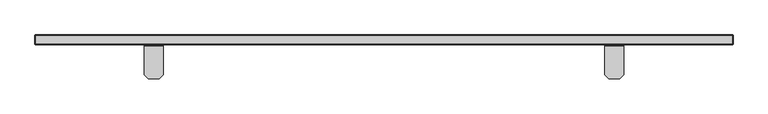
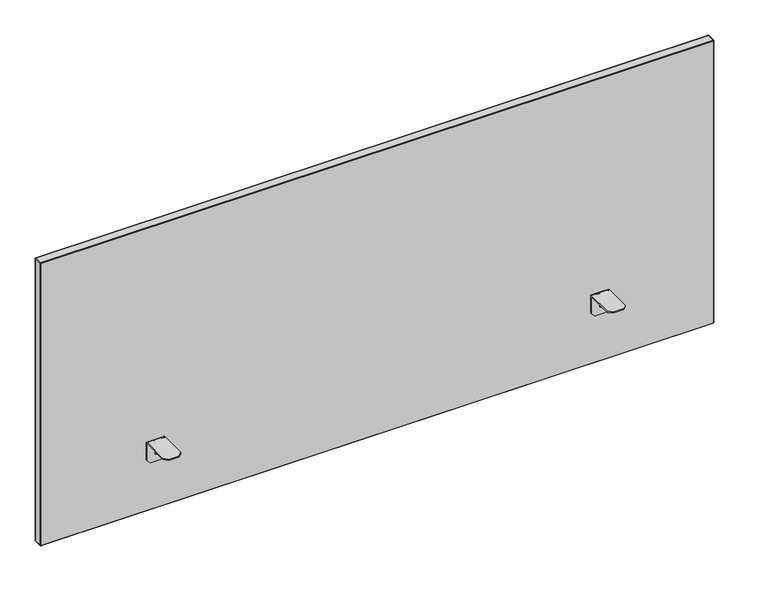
"""IFC4 building model written with IfcOpenShell, lengths in millimetres: furniture geometry, FREZZA_POP AD_Screen-for desk_Fabric : W1800 mm Structure_ZGBI - Embossed White & Finishing_D-King flex_XFGC."""

from ifc_helpers import new_model, si_unit, frame, origin, place, context, project, spatial, polyline, circle_curve, ellipse_curve, source, transform, mapped, element, save
from ifc_brep_helpers import plane_surface, cylinder_surface, revolved_surface, advanced_brep


def furniture_b54c54c6(model_context):
    return source(origin(), model_context, "Body", "AdvancedBrep", [
        advanced_brep(
        [(1557.5, -8.0540949, 725.0), (1557.5, -81.55, 725.0), (1557.5, -81.55, 722.0), (1557.5, -8.0035457, 722.0), (1557.5, -6.55, 720.5464543), (1557.5, -6.55, 673.0), (1557.5, -3.55, 673.0), (1557.5, -3.55, 720.4959051), (1509.5, -8.0035457, 722.0), (1509.5, -81.55, 722.0), (1509.5, -81.55, 725.0), (1509.5, -8.0540949, 725.0), (1509.5, -3.55, 720.4959051), (1509.5, -3.55, 673.0), (1509.5, -6.55, 673.0), (1509.5, -6.55, 720.5464543), (1519.5, -91.55, 725.0), (1547.5, -91.55, 725.0), (1547.5, -3.55, 663.0), (1519.5, -3.55, 663.0), (1547.5, -6.55, 663.0), (1519.5, -6.55, 663.0), (1535.0, -6.55, 720.5464543), (1535.0, -6.55, 682.0), (1532.0, -6.55, 682.0), (1532.0, -6.55, 720.5464543), (1532.0, -8.0035457, 722.0), (1535.0, -8.0035457, 722.0), (1547.5, -91.55, 722.0), (1519.5, -91.55, 722.0), (1532.0, -69.55, 722.0), (1535.0, -69.55, 722.0)],
        [
            (0, 1),
            (1, 2),
            (2, 3),
            (3, 4, circle_curve(frame((1557.5, -8.0035457, 720.5464543), z_axis=(-1.0, 0.0, 0.0), x_axis=(0.0, -1.0, 0.0)), 1.4535457)),
            (4, 5),
            (5, 6),
            (6, 7),
            (7, 0, circle_curve(frame((1557.5, -8.0540949, 720.4959051), z_axis=(1.0, 0.0, 0.0), x_axis=(0.0, -1.0, 0.0)), 4.5040949)),
            (8, 9),
            (9, 10),
            (10, 11),
            (11, 12, circle_curve(frame((1509.5, -8.0540949, 720.4959051), z_axis=(-1.0, 0.0, 0.0), x_axis=(0.0, -1.0, 0.0)), 4.5040949)),
            (12, 13),
            (13, 14),
            (14, 15),
            (15, 8, circle_curve(frame((1509.5, -8.0035457, 720.5464543), z_axis=(1.0, 0.0, 0.0), x_axis=(0.0, -1.0, 0.0)), 1.4535457)),
            (10, 16),
            (16, 17),
            (17, 1),
            (0, 11),
            (7, 12),
            (6, 18),
            (18, 19),
            (19, 13),
            (18, 20),
            (20, 21),
            (21, 19),
            (4, 22),
            (22, 23),
            (23, 24),
            (24, 25),
            (25, 15),
            (14, 21),
            (20, 5),
            (25, 26, circle_curve(frame((1532.0, -8.0035457, 720.5464543), z_axis=(1.0, 0.0, 0.0), x_axis=(0.0, -1.0, 0.0)), 1.4535457)),
            (26, 8),
            (3, 27),
            (27, 22, circle_curve(frame((1535.0, -8.0035457, 720.5464543), z_axis=(-1.0, 0.0, 0.0), x_axis=(0.0, -1.0, 0.0)), 1.4535457)),
            (2, 28),
            (28, 29),
            (29, 9),
            (26, 30),
            (30, 31),
            (31, 27),
            (16, 29),
            (28, 17),
            (31, 23),
            (24, 30),
        ],
        [
            plane_surface(frame((1557.5, 1478.3708958, 725.0), z_axis=(1.0, 0.0, 0.0), x_axis=(0.0, 1.0, 0.0))),
            plane_surface(frame((1509.5, 1478.3708958, 725.0), z_axis=(-1.0, 0.0, 0.0), x_axis=(0.0, -1.0, 0.0))),
            plane_surface(frame((1557.5, -91.55, 725.0), z_axis=(0.0, 0.0, 1.0), x_axis=(-1.0, 0.0, 0.0))),
            cylinder_surface(frame((1509.5, -8.0540949, 720.4959051), z_axis=(1.0, 0.0, 0.0), x_axis=(0.0, -1.0, 0.0)), 4.5040949),
            plane_surface(frame((1557.5, -3.55, 720.4959051), z_axis=(0.0, 1.0, 0.0), x_axis=(-1.0, 0.0, 0.0))),
            plane_surface(frame((1557.5, -3.55, 663.0), z_axis=(0.0, 0.0, -1.0), x_axis=(-1.0, 0.0, 0.0))),
            plane_surface(frame((1557.5, -6.55, 663.0), z_axis=(0.0, -1.0, 0.0), x_axis=(-1.0, 0.0, 0.0))),
            revolved_surface(polyline([(1509.5, -9.4570914, 720.5464543), (1532.0, -9.4570914, 720.5464543)]), (1509.5, -8.0035457, 720.5464543), (-1.0, 0.0, 0.0)),
            revolved_surface(polyline([(1535.0, -9.4570914, 720.5464543), (1557.5, -9.4570914, 720.5464543)]), (1509.5, -8.0035457, 720.5464543), (-1.0, 0.0, 0.0)),
            plane_surface(frame((1557.5, -8.0035457, 722.0), z_axis=(0.0, 0.0, -1.0), x_axis=(-1.0, 0.0, 0.0))),
            plane_surface(frame((1557.5, -91.55, 722.0), z_axis=(0.0, -1.0, 0.0), x_axis=(-1.0, 0.0, 0.0))),
            plane_surface(frame((1557.5, -3.55, 673.0), z_axis=(0.7071067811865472, 0.0, -0.7071067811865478), x_axis=(0.0, -1.0, 0.0))),
            plane_surface(frame((1519.5, -3.55, 663.0), z_axis=(-0.7071067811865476, 0.0, -0.7071067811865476), x_axis=(0.0, -1.0, 0.0))),
            plane_surface(frame((1547.5, -91.55, 725.0), z_axis=(0.7071067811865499, -0.7071067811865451, 0.0), x_axis=(0.0, 0.0, -1.0))),
            plane_surface(frame((1509.5, -81.55, 725.0), z_axis=(-0.7071067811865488, -0.7071067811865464, 0.0), x_axis=(0.0, 0.0, -1.0))),
            plane_surface(frame((1535.0, -69.55, 722.0), z_axis=(1.0000000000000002, 0.0, 0.0), x_axis=(0.0, -0.8442128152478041, 0.5360081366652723))),
            plane_surface(frame((1532.0, -69.55, 722.0), z_axis=(-1.0000000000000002, 0.0, 0.0), x_axis=(0.0, 0.8442128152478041, -0.5360081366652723))),
            plane_surface(frame((1535.0, -6.55, 682.0), z_axis=(0.0, -0.5360081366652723, -0.8442128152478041), x_axis=(-1.0, 0.0, 0.0))),
        ],
        [
            (0, [[1, 2, 3, 4, 5, 6, 7, 8]]),
            (1, [[9, 10, 11, 12, 13, 14, 15, 16]]),
            (2, [[-11, 17, 18, 19, -1, 20]]),
            (3, [[21, -12, -20, -8]]),
            (4, [[-7, 22, 23, 24, -13, -21]]),
            (5, [[25, 26, 27, -23]]),
            (6, [[28, 29, 30, 31, 32, -15, 33, -26, 34, -5]]),
            (7, [[-32, 35, 36, -16]]),
            (8, [[37, 38, -28, -4]]),
            (9, [[39, 40, 41, -9, -36, 42, 43, 44, -37, -3]]),
            (10, [[45, -40, 46, -18]]),
            (11, [[-34, -25, -22, -6]]),
            (12, [[-24, -27, -33, -14]]),
            (13, [[-19, -46, -39, -2]]),
            (14, [[-41, -45, -17, -10]]),
            (15, [[-29, -38, -44, 47]]),
            (16, [[-42, -35, -31, 48]]),
            (17, [[-43, -48, -30, -47]]),
        ],
    ),
        advanced_brep(
        [(322.5, -8.0540949, 725.0), (322.5, -3.55, 720.4959051), (322.5, -3.55, 673.0), (322.5, -6.55, 673.0), (322.5, -6.55, 720.5464543), (322.5, -8.0035457, 722.0), (322.5, -81.55, 722.0), (322.5, -81.55, 725.0), (370.5, -8.0035457, 722.0), (370.5, -6.55, 720.5464543), (370.5, -6.55, 673.0), (370.5, -3.55, 673.0), (370.5, -3.55, 720.4959051), (370.5, -8.0540949, 725.0), (370.5, -81.55, 725.0), (370.5, -81.55, 722.0), (332.5, -91.55, 725.0), (360.5, -91.55, 725.0), (360.5, -3.55, 663.0), (332.5, -3.55, 663.0), (360.5, -6.55, 663.0), (332.5, -6.55, 663.0), (348.0, -6.55, 720.5464543), (348.0, -6.55, 682.0), (345.0, -6.55, 682.0), (345.0, -6.55, 720.5464543), (345.0, -8.0035457, 722.0), (348.0, -8.0035457, 722.0), (345.0, -69.55, 722.0), (348.0, -69.55, 722.0), (360.5, -91.55, 722.0), (332.5, -91.55, 722.0)],
        [
            (0, 1, circle_curve(frame((322.5, -8.0540949, 720.4959051), z_axis=(-1.0, 0.0, 0.0), x_axis=(0.0, -1.0, 0.0)), 4.5040949)),
            (1, 2),
            (2, 3),
            (3, 4),
            (4, 5, circle_curve(frame((322.5, -8.0035457, 720.5464543), z_axis=(1.0, 0.0, 0.0), x_axis=(0.0, -1.0, 0.0)), 1.4535457)),
            (5, 6),
            (6, 7),
            (7, 0),
            (8, 9, circle_curve(frame((370.5, -8.0035457, 720.5464543), z_axis=(-1.0, 0.0, 0.0), x_axis=(0.0, -1.0, 0.0)), 1.4535457)),
            (9, 10),
            (10, 11),
            (11, 12),
            (12, 13, circle_curve(frame((370.5, -8.0540949, 720.4959051), z_axis=(1.0, 0.0, 0.0), x_axis=(0.0, -1.0, 0.0)), 4.5040949)),
            (13, 14),
            (14, 15),
            (15, 8),
            (13, 0),
            (7, 16),
            (16, 17),
            (17, 14),
            (12, 1),
            (11, 18),
            (18, 19),
            (19, 2),
            (18, 20),
            (20, 21),
            (21, 19),
            (3, 21),
            (20, 10),
            (9, 22),
            (22, 23),
            (23, 24),
            (24, 25),
            (25, 4),
            (25, 26, circle_curve(frame((345.0, -8.0035457, 720.5464543), z_axis=(1.0, 0.0, 0.0), x_axis=(0.0, -1.0, 0.0)), 1.4535457)),
            (26, 5),
            (8, 27),
            (27, 22, circle_curve(frame((348.0, -8.0035457, 720.5464543), z_axis=(-1.0, 0.0, 0.0), x_axis=(0.0, -1.0, 0.0)), 1.4535457)),
            (26, 28),
            (28, 29),
            (29, 27),
            (15, 30),
            (30, 31),
            (31, 6),
            (16, 31),
            (30, 17),
            (24, 28),
            (29, 23),
        ],
        [
            plane_surface(frame((322.5, 1478.3708958, 725.0), z_axis=(-1.0, 0.0, 0.0), x_axis=(0.0, 1.0, 0.0))),
            plane_surface(frame((370.5, 1478.3708958, 725.0), z_axis=(1.0, 0.0, 0.0), x_axis=(0.0, -1.0, 0.0))),
            plane_surface(frame((322.5, -91.55, 725.0), z_axis=(0.0, 0.0, 1.0), x_axis=(1.0, 0.0, 0.0))),
            cylinder_surface(frame((370.5, -8.0540949, 720.4959051), z_axis=(-1.0, 0.0, 0.0), x_axis=(0.0, -1.0, 0.0)), 4.5040949),
            plane_surface(frame((322.5, -3.55, 720.4959051), z_axis=(0.0, 1.0, 0.0), x_axis=(1.0, 0.0, 0.0))),
            plane_surface(frame((322.5, -3.55, 663.0), z_axis=(0.0, 0.0, -1.0), x_axis=(1.0, 0.0, 0.0))),
            plane_surface(frame((322.5, -6.55, 663.0), z_axis=(0.0, -1.0, 0.0), x_axis=(1.0, 0.0, 0.0))),
            revolved_surface(polyline([(345.0, -9.4570914, 720.5464543), (322.5, -9.4570914, 720.5464543)]), (370.5, -8.0035457, 720.5464543), (1.0, 0.0, 0.0)),
            revolved_surface(polyline([(370.5, -9.4570914, 720.5464543), (348.0, -9.4570914, 720.5464543)]), (370.5, -8.0035457, 720.5464543), (1.0, 0.0, 0.0)),
            plane_surface(frame((322.5, -8.0035457, 722.0), z_axis=(0.0, 0.0, -1.0), x_axis=(1.0, 0.0, 0.0))),
            plane_surface(frame((322.5, -91.55, 722.0), z_axis=(0.0, -1.0, 0.0), x_axis=(1.0, 0.0, 0.0))),
            plane_surface(frame((322.5, -3.55, 673.0), z_axis=(-0.7071067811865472, 0.0, -0.7071067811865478), x_axis=(0.0, -1.0, 0.0))),
            plane_surface(frame((360.5, -3.55, 663.0), z_axis=(0.7071067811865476, 0.0, -0.7071067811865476), x_axis=(0.0, -1.0, 0.0))),
            plane_surface(frame((332.5, -91.55, 725.0), z_axis=(-0.7071067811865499, -0.7071067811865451, 0.0), x_axis=(0.0, 0.0, -1.0))),
            plane_surface(frame((370.5, -81.55, 725.0), z_axis=(0.7071067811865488, -0.7071067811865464, 0.0), x_axis=(0.0, 0.0, -1.0))),
            plane_surface(frame((345.0, -69.55, 722.0), z_axis=(-1.0000000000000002, 0.0, 0.0), x_axis=(0.0, -0.8442128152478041, 0.5360081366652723))),
            plane_surface(frame((348.0, -69.55, 722.0), z_axis=(1.0000000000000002, 0.0, 0.0), x_axis=(0.0, 0.8442128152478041, -0.5360081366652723))),
            plane_surface(frame((345.0, -6.55, 682.0), z_axis=(0.0, -0.5360081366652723, -0.8442128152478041), x_axis=(1.0, 0.0, 0.0))),
        ],
        [
            (0, [[1, 2, 3, 4, 5, 6, 7, 8]]),
            (1, [[9, 10, 11, 12, 13, 14, 15, 16]]),
            (2, [[17, -8, 18, 19, 20, -14]]),
            (3, [[-1, -17, -13, 21]]),
            (4, [[-21, -12, 22, 23, 24, -2]]),
            (5, [[-23, 25, 26, 27]]),
            (6, [[-4, 28, -26, 29, -10, 30, 31, 32, 33, 34]]),
            (7, [[-5, -34, 35, 36]]),
            (8, [[-9, 37, 38, -30]]),
            (9, [[-6, -36, 39, 40, 41, -37, -16, 42, 43, 44]]),
            (10, [[-19, 45, -43, 46]]),
            (11, [[-3, -24, -27, -28]]),
            (12, [[-11, -29, -25, -22]]),
            (13, [[-7, -44, -45, -18]]),
            (14, [[-15, -20, -46, -42]]),
            (15, [[47, -39, -35, -33]]),
            (16, [[48, -31, -38, -41]]),
            (17, [[-47, -32, -48, -40]]),
        ],
    ),
        advanced_brep(
        [(1838.0, 21.45, 1326.0), (1838.0, 21.45, 530.0), (42.0, 21.45, 530.0), (42.0, 21.45, 1326.0), (1838.0, -3.55, 530.0), (1838.0, -3.55, 1326.0), (42.0, -3.55, 1326.0), (42.0, -3.55, 530.0), (1838.0, -1.55, 528.0), (42.0, -1.55, 528.0), (42.0, 4.45, 528.0), (1838.0, 4.45, 528.0), (42.0, 19.45, 528.0), (1838.0, 19.45, 528.0), (1838.0, 13.45, 528.0), (42.0, 13.45, 528.0), (40.0, 19.45, 530.0), (40.0, -1.55, 530.0), (40.0, -1.55, 1326.0), (40.0, 19.45, 1326.0), (42.0, 19.45, 1328.0), (42.0, -1.55, 1328.0), (1838.0, -1.55, 1328.0), (1838.0, 19.45, 1328.0), (1840.0, 19.45, 1326.0), (1840.0, -1.55, 1326.0), (1840.0, -1.55, 530.0), (1840.0, 19.45, 530.0), (40.5857864, 20.8642136, 1327.4142136), (40.5857864, -2.9642136, 1327.4142136), (40.5857864, 20.8642136, 528.5857864), (40.5857864, -2.9642136, 528.5857864), (1839.4142136, 20.8642136, 1327.4142136), (1839.4142136, -2.9642136, 1327.4142136), (1839.4142136, -2.9642136, 528.5857864), (1839.4142136, 20.8642136, 528.5857864), (42.0, 4.45, 532.0), (42.0, 13.45, 532.0), (1838.0, 4.45, 532.0), (1838.0, 13.45, 532.0)],
        [
            (0, 1),
            (1, 2),
            (2, 3),
            (3, 0),
            (4, 5),
            (5, 6),
            (6, 7),
            (7, 4),
            (8, 9),
            (9, 10),
            (10, 11),
            (11, 8),
            (12, 13),
            (13, 14),
            (14, 15),
            (15, 12),
            (16, 17),
            (17, 18),
            (18, 19),
            (19, 16),
            (20, 21),
            (21, 22),
            (22, 23),
            (23, 20),
            (24, 25),
            (25, 26),
            (26, 27),
            (27, 24),
            (20, 28, ellipse_curve(frame((42.0, 19.45, 1326.0), z_axis=(-0.7071067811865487, -0.7071067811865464, 0.0), x_axis=(-0.7071067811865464, 0.7071067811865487, 0.0)), 2.8284271, 2.0)),
            (28, 19, ellipse_curve(frame((42.0, 19.45, 1326.0), z_axis=(0.0, -0.7071067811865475, 0.7071067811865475), x_axis=(0.0, 0.7071067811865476, 0.7071067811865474)), 2.8284271, 2.0)),
            (18, 29, ellipse_curve(frame((42.0, -1.55, 1326.0), z_axis=(0.0, 0.7071067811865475, 0.7071067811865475), x_axis=(0.0, 0.7071067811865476, -0.7071067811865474)), 2.8284271, 2.0)),
            (29, 21, ellipse_curve(frame((42.0, -1.55, 1326.0), z_axis=(-0.7071067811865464, 0.7071067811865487, 0.0), x_axis=(0.7071067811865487, 0.7071067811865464, 0.0)), 2.8284271, 2.0)),
            (16, 30, ellipse_curve(frame((42.0, 19.45, 530.0), z_axis=(0.0, -0.7071067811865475, -0.7071067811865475), x_axis=(0.0, 0.7071067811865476, -0.7071067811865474)), 2.8284271, 2.0)),
            (30, 12, ellipse_curve(frame((42.0, 19.45, 530.0), z_axis=(-0.7071067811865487, -0.7071067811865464, 0.0), x_axis=(-0.7071067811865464, 0.7071067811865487, 0.0)), 2.8284271, 2.0)),
            (15, 10),
            (9, 31, ellipse_curve(frame((42.0, -1.55, 530.0), z_axis=(-0.7071067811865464, 0.7071067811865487, 0.0), x_axis=(0.7071067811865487, 0.7071067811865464, 0.0)), 2.8284271, 2.0)),
            (31, 17, ellipse_curve(frame((42.0, -1.55, 530.0), z_axis=(0.0, 0.7071067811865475, -0.7071067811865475), x_axis=(0.0, 0.7071067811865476, 0.7071067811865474)), 2.8284271, 2.0)),
            (24, 32, ellipse_curve(frame((1838.0, 19.45, 1326.0), z_axis=(0.0, -0.7071067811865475, 0.7071067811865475), x_axis=(0.0, 0.7071067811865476, 0.7071067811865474)), 2.8284271, 2.0)),
            (32, 23, ellipse_curve(frame((1838.0, 19.45, 1326.0), z_axis=(0.7071067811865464, -0.7071067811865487, 0.0), x_axis=(0.7071067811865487, 0.7071067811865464, 0.0)), 2.8284271, 2.0)),
            (22, 33, ellipse_curve(frame((1838.0, -1.55, 1326.0), z_axis=(0.7071067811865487, 0.7071067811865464, 0.0), x_axis=(-0.7071067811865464, 0.7071067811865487, 0.0)), 2.8284271, 2.0)),
            (33, 25, ellipse_curve(frame((1838.0, -1.55, 1326.0), z_axis=(0.0, 0.7071067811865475, 0.7071067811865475), x_axis=(0.0, 0.7071067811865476, -0.7071067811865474)), 2.8284271, 2.0)),
            (26, 34, ellipse_curve(frame((1838.0, -1.55, 530.0), z_axis=(0.0, 0.7071067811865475, -0.7071067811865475), x_axis=(0.0, 0.7071067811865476, 0.7071067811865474)), 2.8284271, 2.0)),
            (34, 8, ellipse_curve(frame((1838.0, -1.55, 530.0), z_axis=(0.7071067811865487, 0.7071067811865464, 0.0), x_axis=(-0.7071067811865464, 0.7071067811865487, 0.0)), 2.8284271, 2.0)),
            (11, 14),
            (13, 35, ellipse_curve(frame((1838.0, 19.45, 530.0), z_axis=(0.7071067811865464, -0.7071067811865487, 0.0), x_axis=(0.7071067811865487, 0.7071067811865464, 0.0)), 2.8284271, 2.0)),
            (35, 27, ellipse_curve(frame((1838.0, 19.45, 530.0), z_axis=(0.0, -0.7071067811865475, -0.7071067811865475), x_axis=(0.0, 0.7071067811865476, -0.7071067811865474)), 2.8284271, 2.0)),
            (4, 34, ellipse_curve(frame((1838.0, -1.55, 530.0), z_axis=(0.7071067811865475, 0.0, 0.7071067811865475), x_axis=(0.7071067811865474, 0.0, -0.7071067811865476)), 2.8284271, 2.0)),
            (33, 5, ellipse_curve(frame((1838.0, -1.55, 1326.0), z_axis=(0.7071067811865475, 0.0, -0.7071067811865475), x_axis=(-0.7071067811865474, 0.0, -0.7071067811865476)), 2.8284271, 2.0)),
            (35, 1, ellipse_curve(frame((1838.0, 19.45, 530.0), z_axis=(0.7071067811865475, 0.0, 0.7071067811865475), x_axis=(0.7071067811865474, 0.0, -0.7071067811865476)), 2.8284271, 2.0)),
            (0, 32, ellipse_curve(frame((1838.0, 19.45, 1326.0), z_axis=(0.7071067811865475, 0.0, -0.7071067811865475), x_axis=(-0.7071067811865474, 0.0, -0.7071067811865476)), 2.8284271, 2.0)),
            (7, 31, ellipse_curve(frame((42.0, -1.55, 530.0), z_axis=(0.7071067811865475, 0.0, -0.7071067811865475), x_axis=(-0.7071067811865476, 0.0, -0.7071067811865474)), 2.8284271, 2.0)),
            (30, 2, ellipse_curve(frame((42.0, 19.45, 530.0), z_axis=(0.7071067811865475, 0.0, -0.7071067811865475), x_axis=(-0.7071067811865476, 0.0, -0.7071067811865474)), 2.8284271, 2.0)),
            (6, 29, ellipse_curve(frame((42.0, -1.55, 1326.0), z_axis=(-0.7071067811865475, 0.0, -0.7071067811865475), x_axis=(-0.7071067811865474, 0.0, 0.7071067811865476)), 2.8284271, 2.0)),
            (28, 3, ellipse_curve(frame((42.0, 19.45, 1326.0), z_axis=(-0.7071067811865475, 0.0, -0.7071067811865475), x_axis=(-0.7071067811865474, 0.0, 0.7071067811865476)), 2.8284271, 2.0)),
            (36, 10),
            (15, 37),
            (37, 36),
            (38, 39),
            (39, 14),
            (11, 38),
            (37, 39),
            (38, 36),
        ],
        [
            plane_surface(frame((42.0, 21.45, 528.0), z_axis=(0.0, 1.0, 0.0), x_axis=(-1.0, 0.0, 0.0))),
            plane_surface(frame((42.0, -3.55, 528.0), z_axis=(0.0, -1.0, 0.0), x_axis=(1.0, 0.0, 0.0))),
            plane_surface(frame((1838.0, 21.45, 528.0), z_axis=(0.0, 0.0, -1.0), x_axis=(0.0, -1.0, 0.0))),
            plane_surface(frame((40.0, 21.45, 530.0), z_axis=(-1.0, 0.0, 0.0), x_axis=(0.0, -1.0, 0.0))),
            plane_surface(frame((42.0, 21.45, 1328.0), z_axis=(0.0, 0.0, 1.0), x_axis=(0.0, -1.0, 0.0))),
            plane_surface(frame((1840.0, 21.45, 1326.0), z_axis=(1.0, 0.0, 0.0), x_axis=(0.0, -1.0, 0.0))),
            cylinder_surface(frame((42.0, -3.55, 1326.0), z_axis=(0.0, 1.0, 0.0), x_axis=(-1.0, 0.0, 0.0)), 2.0),
            cylinder_surface(frame((42.0, -3.55, 530.0), z_axis=(0.0, 1.0, 0.0), x_axis=(-1.0, 0.0, 0.0)), 2.0),
            cylinder_surface(frame((1838.0, -3.55, 1326.0), z_axis=(0.0, 1.0, 0.0), x_axis=(-1.0, 0.0, 0.0)), 2.0),
            cylinder_surface(frame((1838.0, -3.55, 530.0), z_axis=(0.0, 1.0, 0.0), x_axis=(-1.0, 0.0, 0.0)), 2.0),
            cylinder_surface(frame((1838.0, -1.55, 1328.0), z_axis=(0.0, 0.0, -1.0), x_axis=(-1.0, 0.0, 0.0)), 2.0),
            cylinder_surface(frame((1838.0, 19.45, 1328.0), z_axis=(0.0, 0.0, -1.0), x_axis=(-1.0, 0.0, 0.0)), 2.0),
            cylinder_surface(frame((1840.0, -1.55, 530.0), z_axis=(-1.0, 0.0, 0.0), x_axis=(0.0, 0.0, 1.0)), 2.0),
            cylinder_surface(frame((1840.0, 19.45, 530.0), z_axis=(-1.0, 0.0, 0.0), x_axis=(0.0, 0.0, 1.0)), 2.0),
            cylinder_surface(frame((42.0, -1.55, 528.0), z_axis=(0.0, 0.0, 1.0), x_axis=(1.0, 0.0, 0.0)), 2.0),
            cylinder_surface(frame((42.0, 19.45, 528.0), z_axis=(0.0, 0.0, 1.0), x_axis=(1.0, 0.0, 0.0)), 2.0),
            cylinder_surface(frame((40.0, -1.55, 1326.0), z_axis=(1.0, 0.0, 0.0), x_axis=(0.0, 0.0, -1.0)), 2.0),
            cylinder_surface(frame((40.0, 19.45, 1326.0), z_axis=(1.0, 0.0, 0.0), x_axis=(0.0, 0.0, -1.0)), 2.0),
            plane_surface(frame((42.0, 4.45, 532.0), z_axis=(1.0, 0.0, 0.0), x_axis=(0.0, 1.0, 0.0))),
            plane_surface(frame((1838.0, 4.45, 532.0), z_axis=(-1.0, 0.0, 0.0), x_axis=(0.0, -1.0, 0.0))),
            plane_surface(frame((42.0, 4.45, 532.0), z_axis=(0.0, 0.0, -1.0), x_axis=(1.0, 0.0, 0.0))),
            plane_surface(frame((42.0, 13.45, 532.0), z_axis=(0.0, -1.0, 0.0), x_axis=(1.0, 0.0, 0.0))),
            plane_surface(frame((42.0, 4.45, 528.0), z_axis=(0.0, 1.0, 0.0), x_axis=(1.0, 0.0, 0.0))),
        ],
        [
            (0, [[1, 2, 3, 4]]),
            (1, [[5, 6, 7, 8]]),
            (2, [[9, 10, 11, 12]]),
            (2, [[13, 14, 15, 16]]),
            (3, [[17, 18, 19, 20]]),
            (4, [[21, 22, 23, 24]]),
            (5, [[25, 26, 27, 28]]),
            (6, [[-21, 29, 30, -19, 31, 32]]),
            (7, [[-17, 33, 34, -16, 35, -10, 36, 37]]),
            (8, [[-25, 38, 39, -23, 40, 41]]),
            (9, [[-27, 42, 43, -12, 44, -14, 45, 46]]),
            (10, [[47, -42, -26, -41, 48, -5]]),
            (11, [[49, -1, 50, -38, -28, -46]]),
            (12, [[-47, -8, 51, -36, -9, -43]]),
            (13, [[-49, -45, -13, -34, 52, -2]]),
            (14, [[-51, -7, 53, -31, -18, -37]]),
            (15, [[-52, -33, -20, -30, 54, -3]]),
            (16, [[-53, -6, -48, -40, -22, -32]]),
            (17, [[-54, -29, -24, -39, -50, -4]]),
            (18, [[55, -35, 56, 57]]),
            (19, [[58, 59, -44, 60]]),
            (20, [[-57, 61, -58, 62]]),
            (21, [[-56, -15, -59, -61]]),
            (22, [[-55, -62, -60, -11]]),
        ],
    ),
    ])


if __name__ == "__main__":
    model = new_model("IFC4")
    model_context = context("Model", 3, world=origin())
    ifc_project = project(units=[si_unit("LENGTHUNIT", "METRE", prefix="MILLI")], contexts=[model_context])
    site = spatial("IfcSite", under=ifc_project)
    building = spatial("IfcBuilding", under=site)
    placement = place(None, origin())
    furniture_shape = furniture_b54c54c6(model_context)
    element("IfcFurniture", 1, ObjectType="FREZZA_POP AD_Screen-for desk_Fabric : W1800 mm Structure_ZGBI - Embossed White & Finishing_D-King flex_XFGC", at=placement, inside=building, context=model_context, shape_type="MappedRepresentation", body=[
        mapped(furniture_shape, transform((0.0, 0.0, 0.0), x_axis=(1.0, 0.0, 0.0), y_axis=(0.0, 1.0, 0.0), z_axis=(0.0, 0.0, 1.0))),
    ])
    save(model, "model.ifc")
